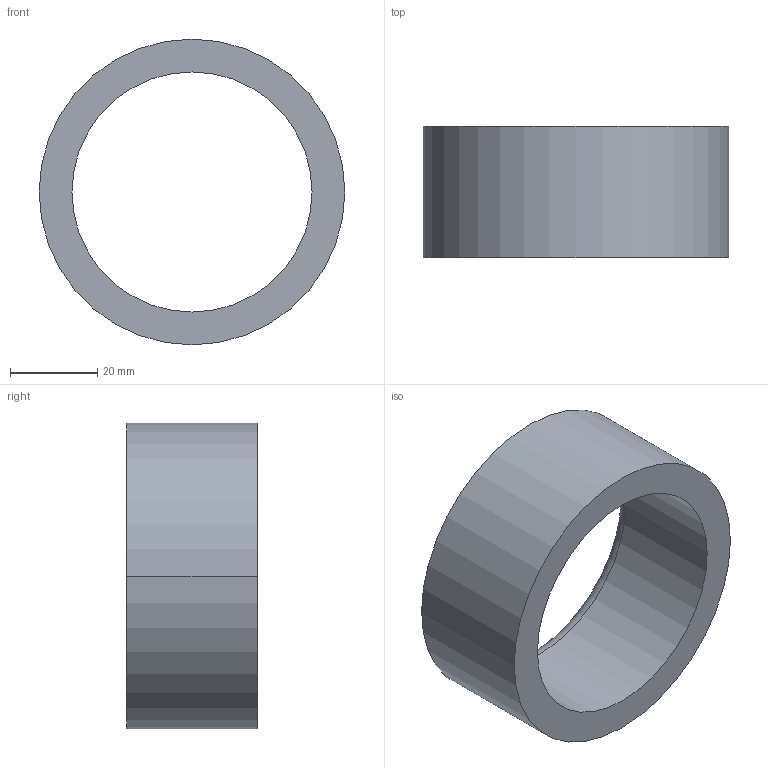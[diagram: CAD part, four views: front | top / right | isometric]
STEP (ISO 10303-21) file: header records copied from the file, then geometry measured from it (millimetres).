
FILE_DESCRIPTION (( 'STEP AP203' ), '1' );
FILE_NAME ('30800.WPP70L55.0.step', '2019-01-23T23:01:40', ( '' ), ( '' ), 'SwSTEP 2.0', 'SolidWorks 2017', '' );
FILE_SCHEMA (( 'CONFIG_CONTROL_DESIGN' ));
Length unit declared in the file: millimetre
Products named in the file (1): 30800.WPP70L55.0
Bounding box: 70 x 30 x 70 mm (x, y, z)
Volume: 43711.5 mm3; surface area: 14472.1 mm2
Topology: 1 solids, 1 shells, 8 faces, 16 edges, 10 vertices
Faces by surface type: cylinder 4, torus 2, plane 2
Entity records: 297 total; most frequent: DIRECTION 46, CARTESIAN_POINT 35, ORIENTED_EDGE 32, AXIS2_PLACEMENT_3D 21, EDGE_CURVE 16, CIRCLE 12, VERTEX_POINT 10, EDGE_LOOP 10
